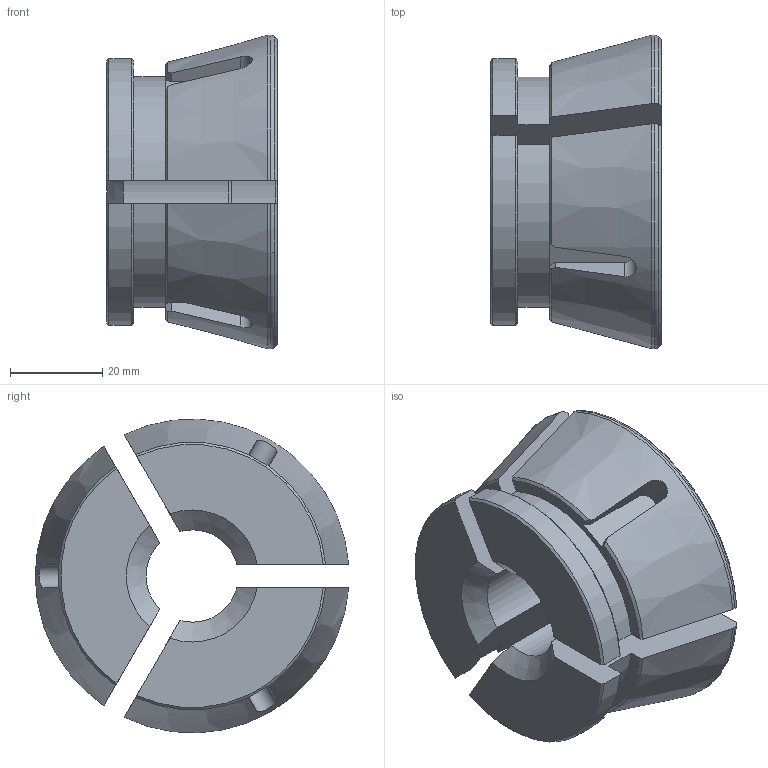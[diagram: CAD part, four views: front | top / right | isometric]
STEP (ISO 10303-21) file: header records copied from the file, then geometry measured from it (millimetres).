
FILE_DESCRIPTION(/* description */ (''),/* implementation_level */ '2;1');
FILE_NAME(/* name */ 'JYEK-68N.stp',/* time_stamp */ '2022-11-14T10:35:21+08:00',/* author */ (''),/* organization */ (''),/* preprocessor_version */ 'ST-DEVELOPER v16.7',/* originating_system */ 'SIEMENS PLM Software NX 12.0',/* authorisation */ '');
FILE_SCHEMA (('AUTOMOTIVE_DESIGN { 1 0 10303 214 3 1 1 1 }'));
Length unit declared in the file: millimetre
Products named in the file (1): _model1
Bounding box: 37 x 67.91 x 67.95 mm (x, y, z)
Volume: 74094 mm3; surface area: 19837.9 mm2
Topology: 3 solids, 3 shells, 108 faces, 288 edges, 192 vertices
Faces by surface type: plane 42, cone 27, cylinder 24, torus 15
Full cylindrical faces by diameter (mm): 4.709 x6
Entity records: 4031 total; most frequent: CARTESIAN_POINT 1474, ORIENTED_EDGE 552, DIRECTION 479, EDGE_CURVE 276, AXIS2_PLACEMENT_3D 193, VERTEX_POINT 186, EDGE_LOOP 120, ADVANCED_FACE 108
